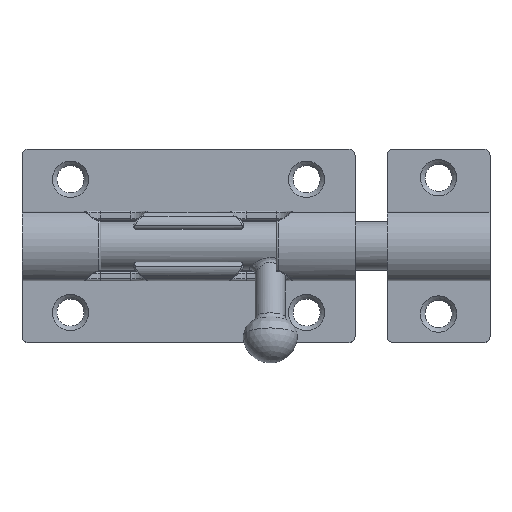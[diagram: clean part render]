
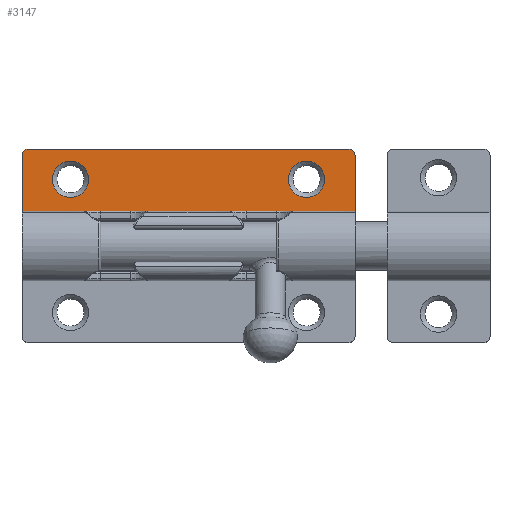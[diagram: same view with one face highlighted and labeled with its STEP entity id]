
A CAD part, top view. The second image highlights one B-rep face of the part: STEP entity #3147.
In plain terms, the highlighted planar face has unit normal (0, 0, 1) as drawn and (0, 1, 0) by its records, which use the part's own axes.
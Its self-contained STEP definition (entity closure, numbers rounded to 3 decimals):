
#51=FACE_BOUND('',#999,.T.);
#52=FACE_BOUND('',#1000,.T.);
#90=PLANE('',#3475);
#336=LINE('',#6783,#488);
#341=LINE('',#6803,#493);
#346=LINE('',#6824,#498);
#352=LINE('',#6845,#504);
#488=VECTOR('',#4163,9.75);
#493=VECTOR('',#4184,53.);
#498=VECTOR('',#4207,9.75);
#504=VECTOR('',#4239,55.);
#788=FACE_OUTER_BOUND('',#998,.T.);
#998=EDGE_LOOP('',(#2759,#2760,#2761,#2762,#2763,#2764));
#999=EDGE_LOOP('',(#2765));
#1000=EDGE_LOOP('',(#2766));
#1191=CIRCLE('',#3413,3.);
#1200=CIRCLE('',#3428,3.);
#1215=CIRCLE('',#3450,1.);
#1218=CIRCLE('',#3456,1.);
#1455=VERTEX_POINT('',#6712);
#1464=VERTEX_POINT('',#6736);
#1481=VERTEX_POINT('',#6780);
#1482=VERTEX_POINT('',#6782);
#1486=VERTEX_POINT('',#6793);
#1489=VERTEX_POINT('',#6801);
#1492=VERTEX_POINT('',#6811);
#1496=VERTEX_POINT('',#6822);
#1872=EDGE_CURVE('',#1455,#1455,#1191,.T.);
#1881=EDGE_CURVE('',#1464,#1464,#1200,.T.);
#1903=EDGE_CURVE('',#1481,#1482,#336,.T.);
#1909=EDGE_CURVE('',#1486,#1481,#1215,.T.);
#1914=EDGE_CURVE('',#1489,#1486,#341,.T.);
#1919=EDGE_CURVE('',#1492,#1489,#1218,.T.);
#1925=EDGE_CURVE('',#1496,#1492,#346,.T.);
#1935=EDGE_CURVE('',#1482,#1496,#352,.T.);
#2759=ORIENTED_EDGE('',*,*,#1909,.F.);
#2760=ORIENTED_EDGE('',*,*,#1914,.F.);
#2761=ORIENTED_EDGE('',*,*,#1919,.F.);
#2762=ORIENTED_EDGE('',*,*,#1925,.F.);
#2763=ORIENTED_EDGE('',*,*,#1935,.F.);
#2764=ORIENTED_EDGE('',*,*,#1903,.F.);
#2765=ORIENTED_EDGE('',*,*,#1872,.T.);
#2766=ORIENTED_EDGE('',*,*,#1881,.T.);
#3147=ADVANCED_FACE('',(#788,#51,#52),#90,.T.);
#3413=AXIS2_PLACEMENT_3D('',#6713,#4088,#4089);
#3428=AXIS2_PLACEMENT_3D('',#6737,#4118,#4119);
#3450=AXIS2_PLACEMENT_3D('',#6794,#4175,#4176);
#3456=AXIS2_PLACEMENT_3D('',#6813,#4194,#4195);
#3475=AXIS2_PLACEMENT_3D('',#6846,#4240,#4241);
#4088=DIRECTION('center_axis',(0.,-1.,0.));
#4089=DIRECTION('ref_axis',(1.,0.,0.));
#4118=DIRECTION('center_axis',(0.,-1.,0.));
#4119=DIRECTION('ref_axis',(1.,0.,0.));
#4163=DIRECTION('',(1.,0.,0.));
#4175=DIRECTION('center_axis',(0.,-1.,0.));
#4176=DIRECTION('ref_axis',(-0.707,0.,-0.707));
#4184=DIRECTION('',(0.,0.,-1.));
#4194=DIRECTION('center_axis',(0.,-1.,0.));
#4195=DIRECTION('ref_axis',(-0.707,0.,0.707));
#4207=DIRECTION('',(-1.,0.,0.));
#4239=DIRECTION('',(0.,0.,1.));
#4240=DIRECTION('center_axis',(0.,1.,0.));
#4241=DIRECTION('ref_axis',(-1.,0.,0.));
#6712=CARTESIAN_POINT('',(-8.,1.5,19.5));
#6713=CARTESIAN_POINT('Origin',(-11.,1.5,19.5));
#6736=CARTESIAN_POINT('',(-8.,1.5,-19.5));
#6737=CARTESIAN_POINT('Origin',(-11.,1.5,-19.5));
#6780=CARTESIAN_POINT('',(-15.,1.5,-27.5));
#6782=CARTESIAN_POINT('',(-5.25,1.5,-27.5));
#6783=CARTESIAN_POINT('',(-5.25,1.5,-27.5));
#6793=CARTESIAN_POINT('',(-16.,1.5,-26.5));
#6794=CARTESIAN_POINT('Origin',(-15.,1.5,-26.5));
#6801=CARTESIAN_POINT('',(-16.,1.5,26.5));
#6803=CARTESIAN_POINT('',(-16.,1.5,0.));
#6811=CARTESIAN_POINT('',(-15.,1.5,27.5));
#6813=CARTESIAN_POINT('Origin',(-15.,1.5,26.5));
#6822=CARTESIAN_POINT('',(-5.25,1.5,27.5));
#6824=CARTESIAN_POINT('',(-5.25,1.5,27.5));
#6845=CARTESIAN_POINT('',(-5.25,1.5,0.));
#6846=CARTESIAN_POINT('Origin',(-7.541,1.5,0.));
